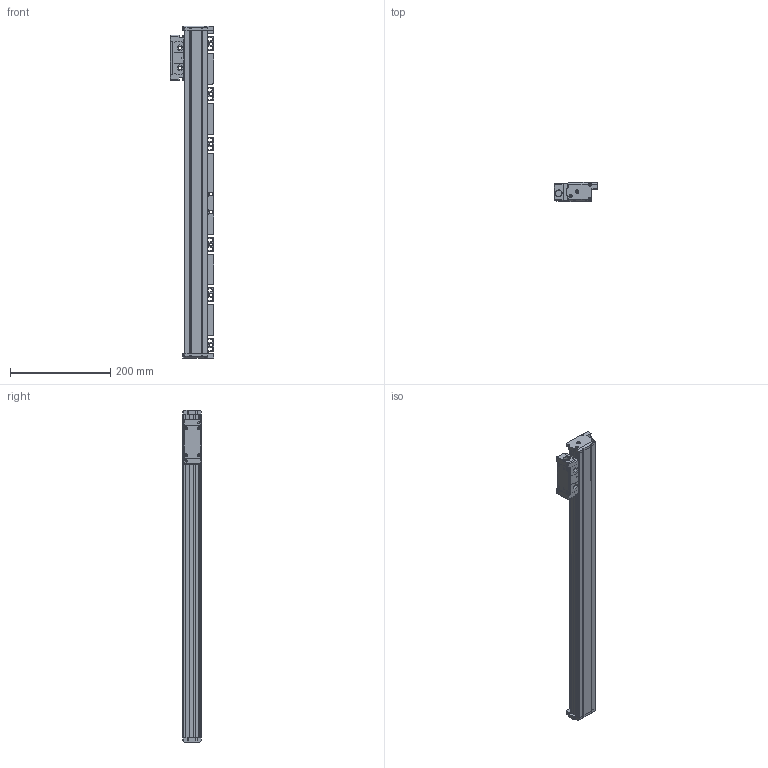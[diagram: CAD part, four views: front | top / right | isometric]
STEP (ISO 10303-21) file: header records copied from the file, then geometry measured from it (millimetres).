
FILE_DESCRIPTION(/* description */ (''),/* implementation_level */ '2;1');
FILE_NAME(/* name */ 'JC21A-540-1.stp',/* time_stamp */ '2023-12-21T16:35:49+08:00',/* author */ (''),/* organization */ (''),/* preprocessor_version */ 'ST-DEVELOPER v14',/* originating_system */ 'SIEMENS PLM Software NX 8.0',/* authorisation */ '');
FILE_SCHEMA (('CONFIG_CONTROL_DESIGN'));
Length unit declared in the file: millimetre
Products named in the file (1): JC21A-540-1
Bounding box: 87.5 x 37 x 661 mm (x, y, z)
Volume: 1089601.3 mm3; surface area: 192001.1 mm2
Topology: 4 solids, 6 shells, 595 faces, 1704 edges, 1127 vertices
Faces by surface type: plane 368, cylinder 195, cone 22, bspline 8, extrusion 2
Full cylindrical faces by diameter (mm): 2.5 x12, 3.3 x6, 3.7 x4, 4.2 x4, 5 x2, 6 x6, 6.6 x2, 6.8 x8, 7 x2, 13.2 x2
Entity records: 19611 total; most frequent: CARTESIAN_POINT 3987, ORIENTED_EDGE 3220, DIRECTION 3194, EDGE_CURVE 1610, VERTEX_POINT 1103, VECTOR 1084, LINE 1082, AXIS2_PLACEMENT_3D 1055
